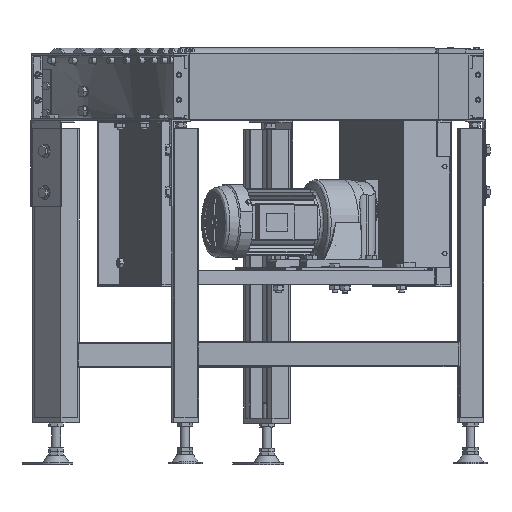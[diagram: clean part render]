
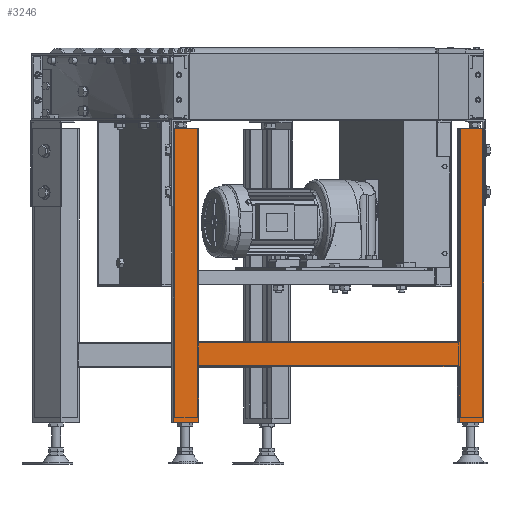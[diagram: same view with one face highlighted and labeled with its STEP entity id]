
A CAD part, top view. The second image highlights one B-rep face of the part: STEP entity #3246.
In plain terms, the highlighted planar face has unit normal (0.045, 0, 0.999).
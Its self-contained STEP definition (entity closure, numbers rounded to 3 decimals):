
#3246=ADVANCED_FACE('',(#28161),#28160,.T.);
#28160=PLANE('',#44219);
#28161=FACE_OUTER_BOUND('',#44220,.T.);
#44216=CARTESIAN_POINT('',(860.816,-685.,-1.398));
#44217=DIRECTION('',(0.045,0.,0.999));
#44218=DIRECTION('',(0.999,0.,-0.045));
#44219=AXIS2_PLACEMENT_3D('',#44216,#44217,#44218);
#44220=EDGE_LOOP('',(#58020,#58021,#58022,#58023,#58024,#58025,#58026,#58027,#58028,#58029,#58030,#58031,#58032,#58033));
#58020=ORIENTED_EDGE('',*,*,#65450,.T.);
#58021=ORIENTED_EDGE('',*,*,#65451,.F.);
#58022=ORIENTED_EDGE('',*,*,#65452,.T.);
#58023=ORIENTED_EDGE('',*,*,#65453,.T.);
#58024=ORIENTED_EDGE('',*,*,#65454,.T.);
#58025=ORIENTED_EDGE('',*,*,#65455,.F.);
#58026=ORIENTED_EDGE('',*,*,#65456,.F.);
#58027=ORIENTED_EDGE('',*,*,#65436,.F.);
#58028=ORIENTED_EDGE('',*,*,#65432,.T.);
#58029=ORIENTED_EDGE('',*,*,#65397,.T.);
#58030=ORIENTED_EDGE('',*,*,#65457,.F.);
#58031=ORIENTED_EDGE('',*,*,#65406,.F.);
#58032=ORIENTED_EDGE('',*,*,#65440,.F.);
#58033=ORIENTED_EDGE('',*,*,#65410,.T.);
#65397=EDGE_CURVE('',#107518,#107511,#107519,.T.);
#65406=EDGE_CURVE('',#107574,#107560,#107581,.T.);
#65410=EDGE_CURVE('',#107608,#107601,#107609,.T.);
#65432=EDGE_CURVE('',#107748,#107518,#107755,.T.);
#65436=EDGE_CURVE('',#107748,#107781,#107782,.T.);
#65440=EDGE_CURVE('',#107608,#107574,#107806,.T.);
#65450=EDGE_CURVE('',#107601,#107872,#107873,.T.);
#65451=EDGE_CURVE('',#107879,#107872,#107880,.T.);
#65452=EDGE_CURVE('',#107879,#107886,#107887,.T.);
#65453=EDGE_CURVE('',#107886,#107893,#107894,.T.);
#65454=EDGE_CURVE('',#107893,#107900,#107901,.T.);
#65455=EDGE_CURVE('',#107907,#107900,#107908,.T.);
#65456=EDGE_CURVE('',#107781,#107907,#107914,.T.);
#65457=EDGE_CURVE('',#107560,#107511,#107920,.T.);
#107511=VERTEX_POINT('',#141870);
#107518=VERTEX_POINT('',#141874);
#107519=LINE('',#141875,#141876);
#107560=VERTEX_POINT('',#141898);
#107574=VERTEX_POINT('',#141906);
#107581=LINE('',#141910,#141911);
#107601=VERTEX_POINT('',#141921);
#107608=VERTEX_POINT('',#141925);
#107609=LINE('',#141926,#141927);
#107748=VERTEX_POINT('',#142002);
#107755=LINE('',#142006,#142007);
#107781=VERTEX_POINT('',#142020);
#107782=LINE('',#142021,#142022);
#107806=LINE('',#142033,#142034);
#107872=VERTEX_POINT('',#142070);
#107873=LINE('',#142071,#142072);
#107879=VERTEX_POINT('',#142074);
#107880=LINE('',#142075,#142076);
#107886=VERTEX_POINT('',#142078);
#107887=LINE('',#142079,#142080);
#107893=VERTEX_POINT('',#142082);
#107894=LINE('',#142083,#142084);
#107900=VERTEX_POINT('',#142086);
#107901=LINE('',#142087,#142088);
#107907=VERTEX_POINT('',#142090);
#107908=LINE('',#142091,#142092);
#107914=LINE('',#142094,#142095);
#107920=LINE('',#142097,#142098);
#141870=CARTESIAN_POINT('',(870.806,-145.,-1.85));
#141874=CARTESIAN_POINT('',(915.76,-145.,-3.883));
#141875=CARTESIAN_POINT('',(915.76,-145.,-3.883));
#141876=VECTOR('',#141877,45.);
#141877=DIRECTION('',(-0.999,0.,0.045));
#141898=CARTESIAN_POINT('',(870.806,-285.,-1.85));
#141906=CARTESIAN_POINT('',(870.806,-675.,-1.85));
#141910=CARTESIAN_POINT('',(870.806,-675.,-1.85));
#141911=VECTOR('',#141912,390.);
#141912=DIRECTION('',(0.,1.,0.));
#141921=CARTESIAN_POINT('',(915.76,-575.,-3.883));
#141925=CARTESIAN_POINT('',(915.76,-675.,-3.883));
#141926=CARTESIAN_POINT('',(915.76,-675.,-3.883));
#141927=VECTOR('',#141928,100.);
#141928=DIRECTION('',(0.,1.,0.));
#142002=CARTESIAN_POINT('',(915.76,-530.,-3.883));
#142006=CARTESIAN_POINT('',(915.76,-530.,-3.883));
#142007=VECTOR('',#142008,385.);
#142008=DIRECTION('',(0.,1.,0.));
#142020=CARTESIAN_POINT('',(1385.28,-530.,-25.12));
#142021=CARTESIAN_POINT('',(915.76,-530.,-3.883));
#142022=VECTOR('',#142023,470.);
#142023=DIRECTION('',(0.999,0.,-0.045));
#142033=CARTESIAN_POINT('',(915.76,-675.,-3.883));
#142034=VECTOR('',#142035,45.);
#142035=DIRECTION('',(-0.999,0.,0.045));
#142070=CARTESIAN_POINT('',(1385.28,-575.,-25.12));
#142071=CARTESIAN_POINT('',(915.76,-575.,-3.883));
#142072=VECTOR('',#142073,470.);
#142073=DIRECTION('',(0.999,0.,-0.045));
#142074=CARTESIAN_POINT('',(1385.28,-675.,-25.12));
#142075=CARTESIAN_POINT('',(1385.28,-675.,-25.12));
#142076=VECTOR('',#142077,100.);
#142077=DIRECTION('',(0.,1.,0.));
#142078=CARTESIAN_POINT('',(1430.234,-675.,-27.154));
#142079=CARTESIAN_POINT('',(1385.28,-675.,-25.12));
#142080=VECTOR('',#142081,45.);
#142081=DIRECTION('',(0.999,0.,-0.045));
#142082=CARTESIAN_POINT('',(1430.234,-285.,-27.154));
#142083=CARTESIAN_POINT('',(1430.234,-675.,-27.154));
#142084=VECTOR('',#142085,390.);
#142085=DIRECTION('',(0.,1.,0.));
#142086=CARTESIAN_POINT('',(1430.234,-145.,-27.154));
#142087=CARTESIAN_POINT('',(1430.234,-285.,-27.154));
#142088=VECTOR('',#142089,140.);
#142089=DIRECTION('',(0.,1.,0.));
#142090=CARTESIAN_POINT('',(1385.28,-145.,-25.12));
#142091=CARTESIAN_POINT('',(1385.28,-145.,-25.12));
#142092=VECTOR('',#142093,45.);
#142093=DIRECTION('',(0.999,0.,-0.045));
#142094=CARTESIAN_POINT('',(1385.28,-530.,-25.12));
#142095=VECTOR('',#142096,385.);
#142096=DIRECTION('',(0.,1.,0.));
#142097=CARTESIAN_POINT('',(870.806,-285.,-1.85));
#142098=VECTOR('',#142099,140.);
#142099=DIRECTION('',(0.,1.,0.));
